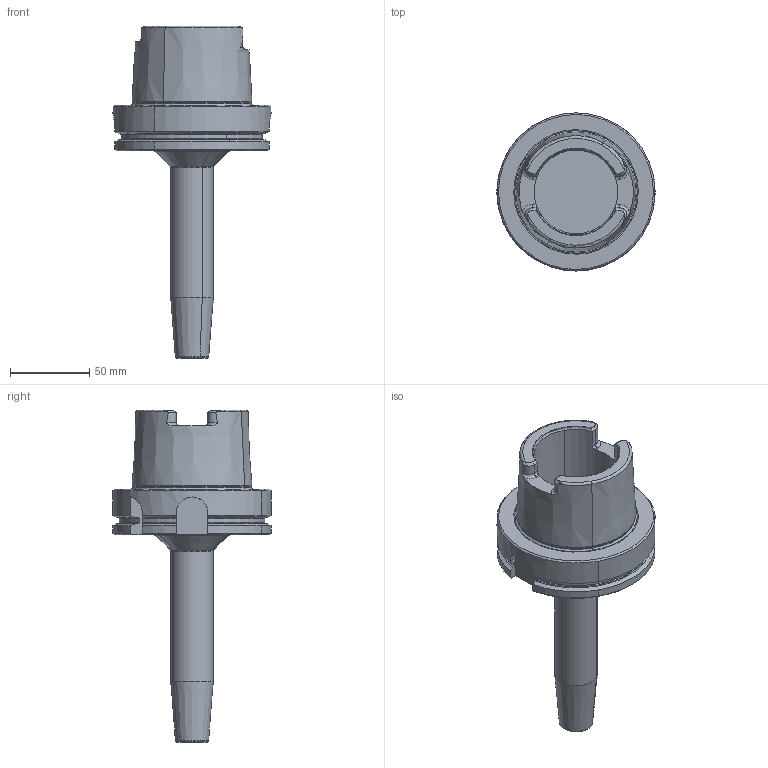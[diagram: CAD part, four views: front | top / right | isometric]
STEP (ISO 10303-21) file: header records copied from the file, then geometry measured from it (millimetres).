
FILE_DESCRIPTION(('CATIA V5 STEP','CAx-IF Rec.Pracs.--- Model Styling and Organization---1.2---2011-12-15'),'2;1');
FILE_NAME('\\nas01\drv1\utils\eitdev\rte\eit\transmagicconvert\db\out\4504230 L.stp','2014-04-02T11:29:53+00:00',('none'),('none'),'CATIA Version 5 Release 21 SP 5 (IN-10)','CATIA V5 STEP AP214','none');
FILE_SCHEMA(('AUTOMOTIVE_DESIGN { 1 0 10303 214 1 1 1 1 }'));
Length unit declared in the file: millimetre
Products named in the file (1): 60977556_0 Holder-Tool HSK A 100 SRKIN 8X160
Bounding box: 99.99 x 100 x 210 mm (x, y, z)
Volume: 361345.3 mm3; surface area: 56823.3 mm2
Topology: 1 solids, 1 shells, 139 faces, 370 edges, 236 vertices
Faces by surface type: cone 37, plane 37, cylinder 33, torus 32
Entity records: 4299 total; most frequent: CARTESIAN_POINT 1210, ORIENTED_EDGE 740, DIRECTION 461, EDGE_CURVE 370, AXIS2_PLACEMENT_3D 244, VERTEX_POINT 236, CIRCLE 161, EDGE_LOOP 142
